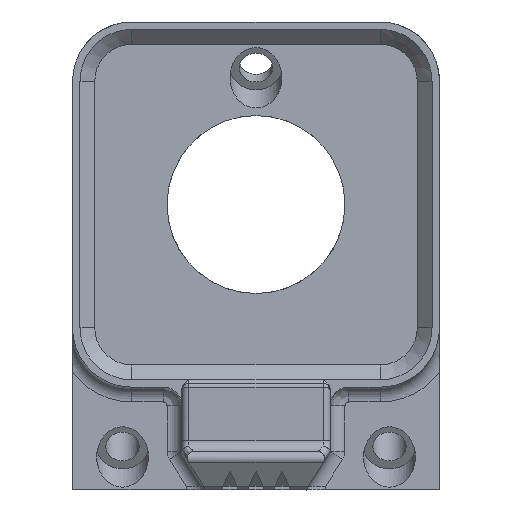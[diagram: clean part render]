
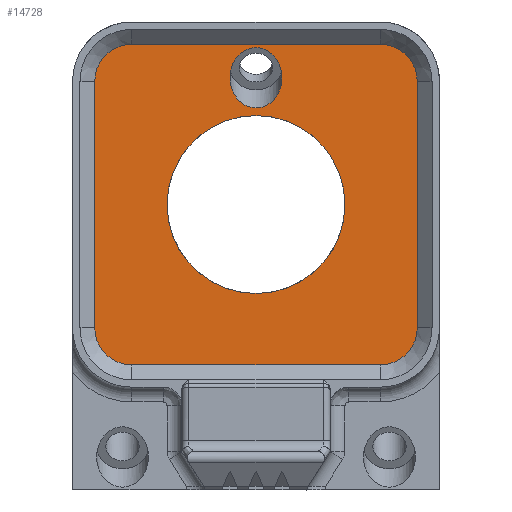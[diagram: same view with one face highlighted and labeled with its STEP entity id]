
A CAD part, front view. The second image highlights one B-rep face of the part: STEP entity #14728.
In plain terms, the highlighted planar face has unit normal (0, -1, 0).
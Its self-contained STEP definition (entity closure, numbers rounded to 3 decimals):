
#537=CIRCLE('',#15032,12.);
#559=CIRCLE('',#15251,5.);
#560=CIRCLE('',#15252,5.);
#561=CIRCLE('',#15253,5.);
#562=CIRCLE('',#15254,5.);
#599=FACE_BOUND('',#3150,.T.);
#600=FACE_BOUND('',#3151,.T.);
#1418=PLANE('',#15250);
#2263=FACE_OUTER_BOUND('',#3149,.T.);
#3149=EDGE_LOOP('',(#13575,#13576,#13577,#13578,#13579,#13580,#13581,#13582));
#3150=EDGE_LOOP('',(#13583));
#3151=EDGE_LOOP('',(#13584));
#4508=LINE('',#31184,#5867);
#4509=LINE('',#31188,#5868);
#4510=LINE('',#31192,#5869);
#4511=LINE('',#31195,#5870);
#5867=VECTOR('',#17596,10.);
#5868=VECTOR('',#17599,10.);
#5869=VECTOR('',#17602,10.);
#5870=VECTOR('',#17605,10.);
#5920=ELLIPSE('',#15236,4.07,3.5);
#6787=VERTEX_POINT('',#26818);
#7206=VERTEX_POINT('',#31153);
#7212=VERTEX_POINT('',#31180);
#7213=VERTEX_POINT('',#31181);
#7214=VERTEX_POINT('',#31183);
#7215=VERTEX_POINT('',#31185);
#7216=VERTEX_POINT('',#31187);
#7217=VERTEX_POINT('',#31189);
#7218=VERTEX_POINT('',#31191);
#7219=VERTEX_POINT('',#31193);
#8509=EDGE_CURVE('',#6787,#6787,#537,.T.);
#9328=EDGE_CURVE('',#7206,#7206,#5920,.T.);
#9340=EDGE_CURVE('',#7212,#7213,#559,.T.);
#9341=EDGE_CURVE('',#7213,#7214,#4508,.T.);
#9342=EDGE_CURVE('',#7214,#7215,#560,.T.);
#9343=EDGE_CURVE('',#7215,#7216,#4509,.T.);
#9344=EDGE_CURVE('',#7216,#7217,#561,.T.);
#9345=EDGE_CURVE('',#7217,#7218,#4510,.T.);
#9346=EDGE_CURVE('',#7218,#7219,#562,.T.);
#9347=EDGE_CURVE('',#7219,#7212,#4511,.T.);
#13575=ORIENTED_EDGE('',*,*,#9340,.T.);
#13576=ORIENTED_EDGE('',*,*,#9341,.T.);
#13577=ORIENTED_EDGE('',*,*,#9342,.T.);
#13578=ORIENTED_EDGE('',*,*,#9343,.T.);
#13579=ORIENTED_EDGE('',*,*,#9344,.T.);
#13580=ORIENTED_EDGE('',*,*,#9345,.T.);
#13581=ORIENTED_EDGE('',*,*,#9346,.T.);
#13582=ORIENTED_EDGE('',*,*,#9347,.T.);
#13583=ORIENTED_EDGE('',*,*,#8509,.T.);
#13584=ORIENTED_EDGE('',*,*,#9328,.T.);
#14728=ADVANCED_FACE('',(#2263,#599,#600),#1418,.T.);
#15032=AXIS2_PLACEMENT_3D('',#26819,#16597,#16598);
#15236=AXIS2_PLACEMENT_3D('',#31154,#17558,#17559);
#15250=AXIS2_PLACEMENT_3D('',#31179,#17592,#17593);
#15251=AXIS2_PLACEMENT_3D('',#31182,#17594,#17595);
#15252=AXIS2_PLACEMENT_3D('',#31186,#17597,#17598);
#15253=AXIS2_PLACEMENT_3D('',#31190,#17600,#17601);
#15254=AXIS2_PLACEMENT_3D('',#31194,#17603,#17604);
#16597=DIRECTION('center_axis',(0.,1.,0.));
#16598=DIRECTION('ref_axis',(1.,0.,0.));
#17558=DIRECTION('center_axis',(0.,1.,0.));
#17559=DIRECTION('ref_axis',(0.,0.,1.));
#17592=DIRECTION('center_axis',(0.,-1.,0.));
#17593=DIRECTION('ref_axis',(0.,0.,-1.));
#17594=DIRECTION('center_axis',(0.,-1.,0.));
#17595=DIRECTION('ref_axis',(-1.,0.,0.));
#17596=DIRECTION('',(0.,0.,-1.));
#17597=DIRECTION('center_axis',(0.,-1.,0.));
#17598=DIRECTION('ref_axis',(0.,0.,-1.));
#17599=DIRECTION('',(1.,0.,0.));
#17600=DIRECTION('center_axis',(0.,-1.,0.));
#17601=DIRECTION('ref_axis',(1.,0.,0.));
#17602=DIRECTION('',(0.,0.,1.));
#17603=DIRECTION('center_axis',(0.,-1.,0.));
#17604=DIRECTION('ref_axis',(0.,0.,1.));
#17605=DIRECTION('',(-1.,0.,0.));
#26818=CARTESIAN_POINT('',(-12.,21.,0.));
#26819=CARTESIAN_POINT('Origin',(0.,21.,0.));
#31153=CARTESIAN_POINT('',(0.,21.,13.039));
#31154=CARTESIAN_POINT('Origin',(0.,21.,17.108));
#31179=CARTESIAN_POINT('Origin',(0.,21.,24.314));
#31180=CARTESIAN_POINT('',(-16.75,21.,21.625));
#31181=CARTESIAN_POINT('',(-21.75,21.,16.625));
#31182=CARTESIAN_POINT('Origin',(-16.75,21.,16.625));
#31183=CARTESIAN_POINT('',(-21.75,21.,-16.625));
#31184=CARTESIAN_POINT('',(-21.75,21.,16.625));
#31185=CARTESIAN_POINT('',(-16.75,21.,-21.625));
#31186=CARTESIAN_POINT('Origin',(-16.75,21.,-16.625));
#31187=CARTESIAN_POINT('',(16.75,21.,-21.625));
#31188=CARTESIAN_POINT('',(-16.75,21.,-21.625));
#31189=CARTESIAN_POINT('',(21.75,21.,-16.625));
#31190=CARTESIAN_POINT('Origin',(16.75,21.,-16.625));
#31191=CARTESIAN_POINT('',(21.75,21.,16.625));
#31192=CARTESIAN_POINT('',(21.75,21.,-16.625));
#31193=CARTESIAN_POINT('',(16.75,21.,21.625));
#31194=CARTESIAN_POINT('Origin',(16.75,21.,16.625));
#31195=CARTESIAN_POINT('',(16.75,21.,21.625));
